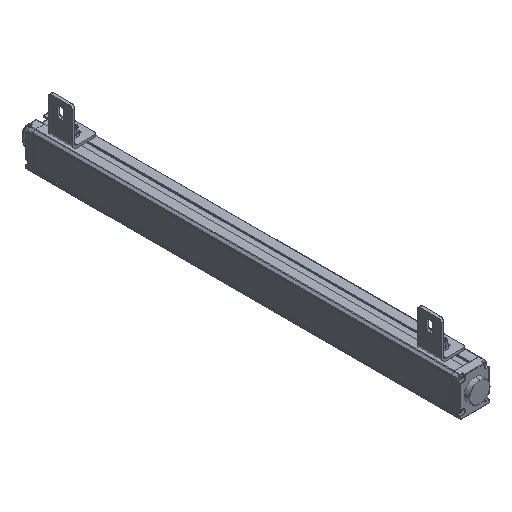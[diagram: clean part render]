
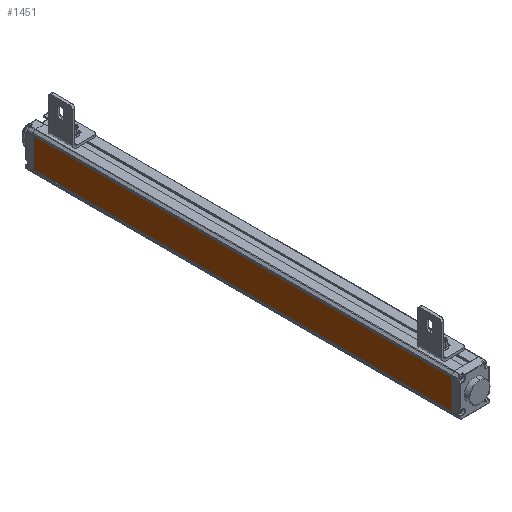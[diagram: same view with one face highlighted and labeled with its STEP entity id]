
A CAD part, isometric view. The second image highlights one B-rep face of the part: STEP entity #1451.
In plain terms, the highlighted planar face has unit normal (-1, 0, 0).
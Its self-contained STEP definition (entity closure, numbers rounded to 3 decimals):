
#24=DIRECTION('',(0.,0.,1.));
#25=VECTOR('',#24,35.4);
#26=CARTESIAN_POINT('',(-17.7,-252.5,-18.1));
#27=LINE('',#26,#25);
#361=DIRECTION('',(0.,0.,1.));
#362=VECTOR('',#361,35.4);
#363=CARTESIAN_POINT('',(-17.7,252.5,-18.1));
#364=LINE('',#363,#362);
#534=DIRECTION('',(0.,1.,0.));
#535=VECTOR('',#534,505.);
#536=CARTESIAN_POINT('',(-17.7,-252.5,17.3));
#537=LINE('',#536,#535);
#538=DIRECTION('',(0.,1.,0.));
#539=VECTOR('',#538,505.);
#540=CARTESIAN_POINT('',(-17.7,-252.5,-18.1));
#541=LINE('',#540,#539);
#613=CARTESIAN_POINT('',(-17.7,-252.5,-18.1));
#615=VERTEX_POINT('',#613);
#616=CARTESIAN_POINT('',(-17.7,-252.5,17.3));
#617=VERTEX_POINT('',#616);
#633=CARTESIAN_POINT('',(-17.7,252.5,-18.1));
#635=VERTEX_POINT('',#633);
#636=CARTESIAN_POINT('',(-17.7,252.5,17.3));
#637=VERTEX_POINT('',#636);
#1439=CARTESIAN_POINT('',(-17.7,-252.5,-18.1));
#1440=DIRECTION('',(-1.,0.,0.));
#1441=DIRECTION('',(0.,0.,1.));
#1442=AXIS2_PLACEMENT_3D('',#1439,#1440,#1441);
#1443=PLANE('',#1442);
#1444=ORIENTED_EDGE('',*,*,#741,.F.);
#1446=ORIENTED_EDGE('',*,*,#1445,.T.);
#1447=ORIENTED_EDGE('',*,*,#933,.T.);
#1448=ORIENTED_EDGE('',*,*,#1432,.F.);
#1449=EDGE_LOOP('',(#1444,#1446,#1447,#1448));
#1450=FACE_OUTER_BOUND('',#1449,.F.);
#1451=ADVANCED_FACE('',(#1450),#1443,.T.);
#741=EDGE_CURVE('',#615,#617,#27,.T.);
#933=EDGE_CURVE('',#635,#637,#364,.T.);
#1432=EDGE_CURVE('',#617,#637,#537,.T.);
#1445=EDGE_CURVE('',#615,#635,#541,.T.);
